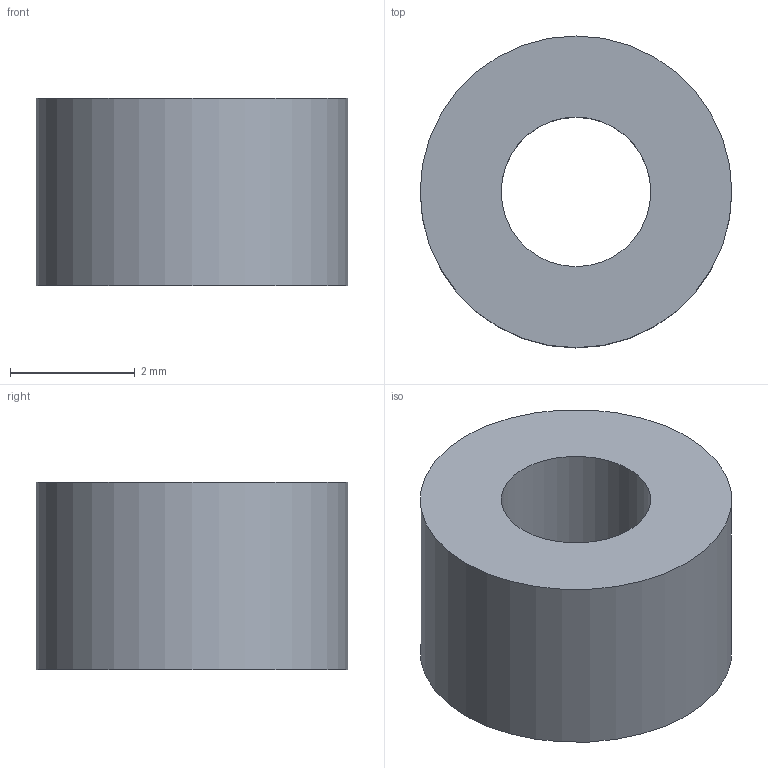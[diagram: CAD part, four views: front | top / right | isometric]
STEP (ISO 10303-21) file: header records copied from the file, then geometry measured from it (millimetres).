
FILE_DESCRIPTION(('Open CASCADE Model'),'2;1');
FILE_NAME('Open CASCADE Shape Model','2026-09-19T10:08:23',('Author'),( 'Open CASCADE'),'Open CASCADE STEP processor 7.9','Open CASCADE 7.9' ,'Unknown');
FILE_SCHEMA(('AUTOMOTIVE_DESIGN { 1 0 10303 214 1 1 1 1 }'));
Length unit declared in the file: millimetre
Products named in the file (1): Open CASCADE STEP translator 7.9 9
Bounding box: 5 x 5 x 3 mm (x, y, z)
Volume: 45.3 mm3; surface area: 100 mm2
Topology: 1 solids, 1 shells, 4 faces, 6 edges, 4 vertices
Faces by surface type: cylinder 2, plane 2
Full cylindrical faces by diameter (mm): 2.4 x1, 5 x1
Entity records: 186 total; most frequent: DIRECTION 32, CARTESIAN_POINT 27, ORIENTED_EDGE 12, PCURVE 12, DEFINITIONAL_REPRESENTATION 12, LINE 10, VECTOR 10, AXIS2_PLACEMENT_3D 9
